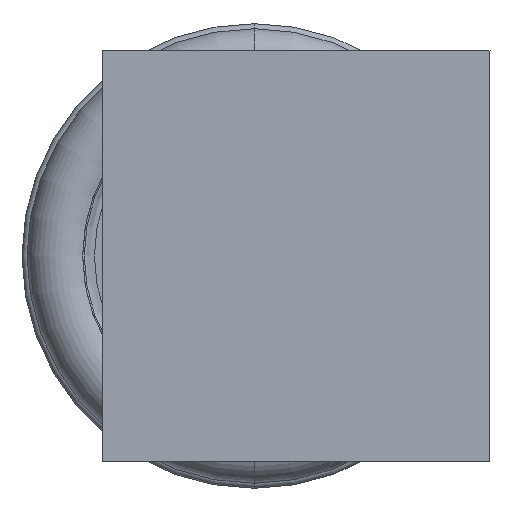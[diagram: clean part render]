
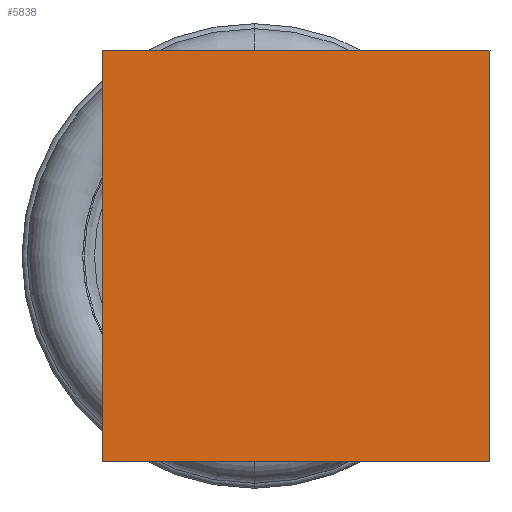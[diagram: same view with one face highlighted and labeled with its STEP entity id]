
A CAD part, left-side view. The second image highlights one B-rep face of the part: STEP entity #5838.
In plain terms, the highlighted planar face has unit normal (-1, 0, 0).
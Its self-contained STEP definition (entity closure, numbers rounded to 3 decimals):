
#704 = DIRECTION ( 'NONE',  ( 0., -1., 0. ) ) ;
#947 = CARTESIAN_POINT ( 'NONE',  ( -140., 0., 0. ) ) ;
#1210 = CARTESIAN_POINT ( 'NONE',  ( -140., -6.999, -6.1 ) ) ;
#1459 = CARTESIAN_POINT ( 'NONE',  ( -140., -6.999, 0. ) ) ;
#3161 = ORIENTED_EDGE ( 'NONE', *, *, #5836, .F. ) ;
#3411 = VERTEX_POINT ( 'NONE', #8445 ) ;
#3527 = VERTEX_POINT ( 'NONE', #23346 ) ;
#4236 = ORIENTED_EDGE ( 'NONE', *, *, #22333, .T. ) ;
#4290 = CARTESIAN_POINT ( 'NONE',  ( -140., -15., -6.1 ) ) ;
#4396 = DIRECTION ( 'NONE',  ( -1., 0., 0. ) ) ;
#4892 = CARTESIAN_POINT ( 'NONE',  ( -140., 4.5, -6.1 ) ) ;
#4961 = VERTEX_POINT ( 'NONE', #1210 ) ;
#5207 = VECTOR ( 'NONE', #19219, 1000. ) ;
#5399 = VECTOR ( 'NONE', #17059, 1000. ) ;
#5836 = EDGE_CURVE ( 'NONE', #7582, #3527, #18384, .T. ) ;
#5838 = ADVANCED_FACE ( 'NONE', ( #6427 ), #17431, .T. ) ;
#6427 = FACE_OUTER_BOUND ( 'NONE', #8256, .T. ) ;
#7582 = VERTEX_POINT ( 'NONE', #4892 ) ;
#8256 = EDGE_LOOP ( 'NONE', ( #3161, #11008, #4236, #9393 ) ) ;
#8445 = CARTESIAN_POINT ( 'NONE',  ( -140., -6.999, 6.1 ) ) ;
#9216 = EDGE_CURVE ( 'NONE', #3411, #3527, #16390, .T. ) ;
#9393 = ORIENTED_EDGE ( 'NONE', *, *, #9216, .T. ) ;
#10147 = LINE ( 'NONE', #4290, #5207 ) ;
#10751 = AXIS2_PLACEMENT_3D ( 'NONE', #947, #4396, #704 ) ;
#11008 = ORIENTED_EDGE ( 'NONE', *, *, #17757, .F. ) ;
#11851 = DIRECTION ( 'NONE',  ( 0., 0., 1. ) ) ;
#13766 = LINE ( 'NONE', #1459, #22314 ) ;
#16267 = VECTOR ( 'NONE', #20065, 1000. ) ;
#16390 = LINE ( 'NONE', #20299, #16267 ) ;
#17059 = DIRECTION ( 'NONE',  ( 0., 0., 1. ) ) ;
#17431 = PLANE ( 'NONE',  #10751 ) ;
#17757 = EDGE_CURVE ( 'NONE', #4961, #7582, #10147, .T. ) ;
#18384 = LINE ( 'NONE', #18969, #5399 ) ;
#18969 = CARTESIAN_POINT ( 'NONE',  ( -140., 4.5, -15. ) ) ;
#19219 = DIRECTION ( 'NONE',  ( 0., 1., 0. ) ) ;
#20065 = DIRECTION ( 'NONE',  ( 0., 1., 0. ) ) ;
#20299 = CARTESIAN_POINT ( 'NONE',  ( -140., -15., 6.1 ) ) ;
#22314 = VECTOR ( 'NONE', #11851, 1000. ) ;
#22333 = EDGE_CURVE ( 'NONE', #4961, #3411, #13766, .T. ) ;
#23346 = CARTESIAN_POINT ( 'NONE',  ( -140., 4.5, 6.1 ) ) ;
